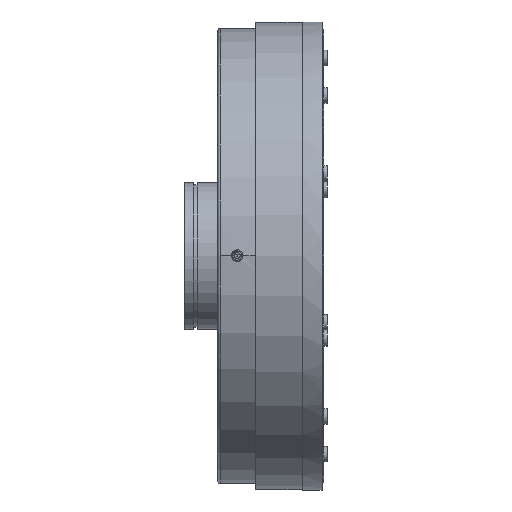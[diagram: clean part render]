
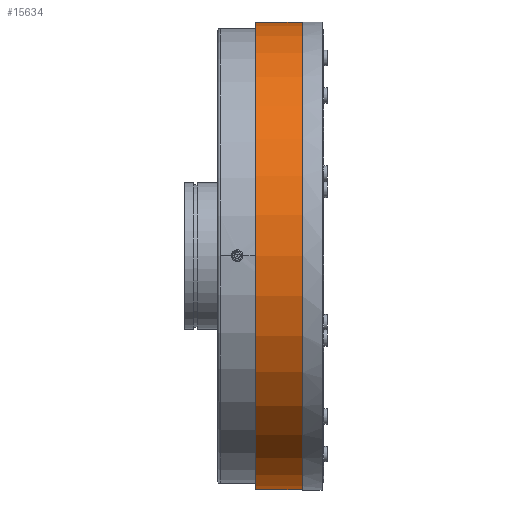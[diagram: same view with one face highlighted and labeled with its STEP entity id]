
A CAD part, top view. The second image highlights one B-rep face of the part: STEP entity #15634.
In plain terms, the highlighted cylindrical face has radius 302.5 mm (diameter 605 mm), a full revolution.
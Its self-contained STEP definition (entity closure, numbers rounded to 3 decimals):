
#1922=FACE_OUTER_BOUND('',#2832,.T.);
#2832=EDGE_LOOP('',(#14169,#14170,#14171,#14172,#14173,#14174));
#3757=LINE('',#27772,#4628);
#4628=VECTOR('',#22692,302.5);
#5961=CIRCLE('',#17716,302.5);
#5962=CIRCLE('',#17717,302.5);
#5963=CIRCLE('',#17719,302.5);
#5964=CIRCLE('',#17720,302.5);
#7516=VERTEX_POINT('',#27763);
#7517=VERTEX_POINT('',#27764);
#7518=VERTEX_POINT('',#27768);
#7519=VERTEX_POINT('',#27769);
#9800=EDGE_CURVE('',#7516,#7517,#5961,.T.);
#9801=EDGE_CURVE('',#7517,#7516,#5962,.T.);
#9802=EDGE_CURVE('',#7518,#7519,#5963,.T.);
#9803=EDGE_CURVE('',#7519,#7518,#5964,.T.);
#9804=EDGE_CURVE('',#7519,#7517,#3757,.T.);
#14169=ORIENTED_EDGE('',*,*,#9802,.F.);
#14170=ORIENTED_EDGE('',*,*,#9803,.F.);
#14171=ORIENTED_EDGE('',*,*,#9804,.T.);
#14172=ORIENTED_EDGE('',*,*,#9801,.T.);
#14173=ORIENTED_EDGE('',*,*,#9800,.T.);
#14174=ORIENTED_EDGE('',*,*,#9804,.F.);
#14891=CYLINDRICAL_SURFACE('',#17718,302.5);
#15634=ADVANCED_FACE('',(#1922),#14891,.T.);
#17716=AXIS2_PLACEMENT_3D('',#27765,#22682,#22683);
#17717=AXIS2_PLACEMENT_3D('',#27766,#22684,#22685);
#17718=AXIS2_PLACEMENT_3D('',#27767,#22686,#22687);
#17719=AXIS2_PLACEMENT_3D('',#27770,#22688,#22689);
#17720=AXIS2_PLACEMENT_3D('',#27771,#22690,#22691);
#22682=DIRECTION('center_axis',(1.,0.,0.));
#22683=DIRECTION('ref_axis',(0.,0.,-1.));
#22684=DIRECTION('center_axis',(1.,0.,0.));
#22685=DIRECTION('ref_axis',(0.,0.,-1.));
#22686=DIRECTION('center_axis',(1.,0.,0.));
#22687=DIRECTION('ref_axis',(0.,1.,0.));
#22688=DIRECTION('center_axis',(1.,0.,0.));
#22689=DIRECTION('ref_axis',(0.,0.,-1.));
#22690=DIRECTION('center_axis',(1.,0.,0.));
#22691=DIRECTION('ref_axis',(0.,0.,-1.));
#22692=DIRECTION('',(-1.,0.,0.));
#27763=CARTESIAN_POINT('',(17.7,302.5,0.));
#27764=CARTESIAN_POINT('',(17.7,-302.5,0.));
#27765=CARTESIAN_POINT('Origin',(17.7,0.,
0.));
#27766=CARTESIAN_POINT('Origin',(17.7,0.,
0.));
#27767=CARTESIAN_POINT('Origin',(47.7,0.,
0.));
#27768=CARTESIAN_POINT('',(77.7,302.5,0.));
#27769=CARTESIAN_POINT('',(77.7,-302.5,0.));
#27770=CARTESIAN_POINT('Origin',(77.7,0.,
0.));
#27771=CARTESIAN_POINT('Origin',(77.7,0.,
0.));
#27772=CARTESIAN_POINT('',(47.7,-302.5,0.));
